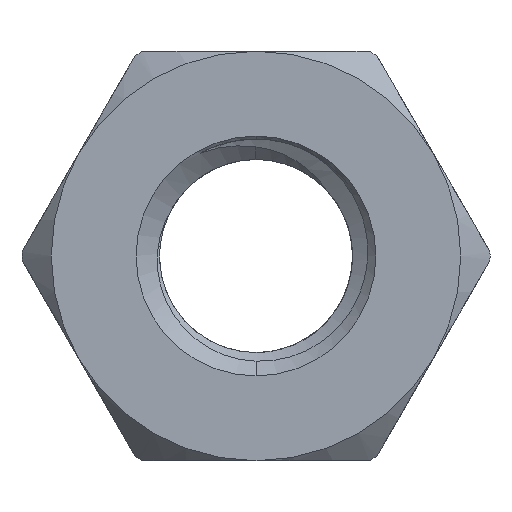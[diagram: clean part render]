
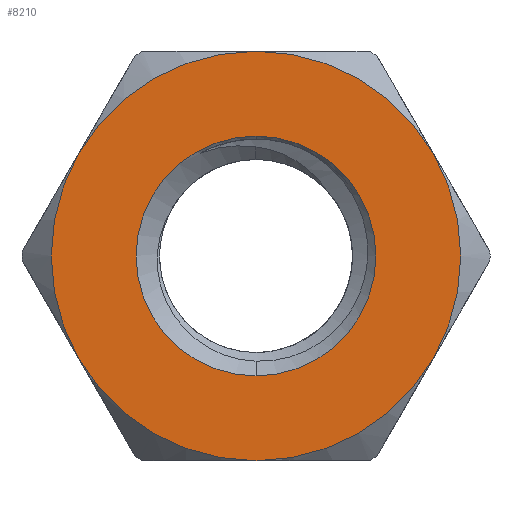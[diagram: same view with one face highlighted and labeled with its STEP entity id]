
A CAD part, front view. The second image highlights one B-rep face of the part: STEP entity #8210.
In plain terms, the highlighted planar face has unit normal (0, -1, 0).
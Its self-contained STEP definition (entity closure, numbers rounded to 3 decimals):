
#90 = CARTESIAN_POINT ( 'NONE',  ( 0., 0., 0. ) ) ;
#135 = CARTESIAN_POINT ( 'NONE',  ( 0., 0., 0. ) ) ;
#151 = DIRECTION ( 'NONE',  ( 0., 1., 0. ) ) ;
#203 = AXIS2_PLACEMENT_3D ( 'NONE', #3745, #3675, #1265 ) ;
#414 = CIRCLE ( 'NONE', #203, 2.05 ) ;
#728 = CIRCLE ( 'NONE', #5628, 3.5 ) ;
#756 = CARTESIAN_POINT ( 'NONE',  ( 0., 0., 3.5 ) ) ;
#856 = CARTESIAN_POINT ( 'NONE',  ( 0., 0., -2.05 ) ) ;
#858 = DIRECTION ( 'NONE',  ( 0., 0., 1. ) ) ;
#893 = DIRECTION ( 'NONE',  ( 0., 0., 1. ) ) ;
#1265 = DIRECTION ( 'NONE',  ( 0., 0., -1. ) ) ;
#1441 = DIRECTION ( 'NONE',  ( 0., 0., 1. ) ) ;
#1510 = CARTESIAN_POINT ( 'NONE',  ( 0., 0., 0. ) ) ;
#1599 = VERTEX_POINT ( 'NONE', #7257 ) ;
#1640 = CARTESIAN_POINT ( 'NONE',  ( 0., 0., 0. ) ) ;
#1822 = FACE_BOUND ( 'NONE', #2316, .T. ) ;
#1838 = EDGE_CURVE ( 'NONE', #9264, #6832, #414, .T. ) ;
#2303 = DIRECTION ( 'NONE',  ( 0., 0., -1. ) ) ;
#2316 = EDGE_LOOP ( 'NONE', ( #2657, #5925 ) ) ;
#2382 = DIRECTION ( 'NONE',  ( 0., -1., 0. ) ) ;
#2591 = CIRCLE ( 'NONE', #7183, 3.5 ) ;
#2657 = ORIENTED_EDGE ( 'NONE', *, *, #2745, .F. ) ;
#2738 = AXIS2_PLACEMENT_3D ( 'NONE', #1510, #6931, #1441 ) ;
#2745 = EDGE_CURVE ( 'NONE', #6832, #9264, #5400, .T. ) ;
#2837 = CARTESIAN_POINT ( 'NONE',  ( 0., 0., 0. ) ) ;
#2848 = EDGE_CURVE ( 'NONE', #8259, #5624, #9139, .T. ) ;
#3101 = EDGE_CURVE ( 'NONE', #5560, #6317, #728, .T. ) ;
#3119 = DIRECTION ( 'NONE',  ( 0., -1., 0. ) ) ;
#3189 = ORIENTED_EDGE ( 'NONE', *, *, #6010, .T. ) ;
#3442 = CARTESIAN_POINT ( 'NONE',  ( 0., 0., 0. ) ) ;
#3519 = DIRECTION ( 'NONE',  ( 0., -1., 0. ) ) ;
#3594 = DIRECTION ( 'NONE',  ( 0., 0., 1. ) ) ;
#3617 = CIRCLE ( 'NONE', #4847, 3.5 ) ;
#3623 = ORIENTED_EDGE ( 'NONE', *, *, #3101, .T. ) ;
#3675 = DIRECTION ( 'NONE',  ( 0., -1., 0. ) ) ;
#3745 = CARTESIAN_POINT ( 'NONE',  ( 0., 0., 0. ) ) ;
#3808 = AXIS2_PLACEMENT_3D ( 'NONE', #1640, #3119, #9471 ) ;
#4045 = CARTESIAN_POINT ( 'NONE',  ( 0., 0., 0. ) ) ;
#4357 = ORIENTED_EDGE ( 'NONE', *, *, #2848, .T. ) ;
#4432 = ORIENTED_EDGE ( 'NONE', *, *, #9297, .T. ) ;
#4568 = CIRCLE ( 'NONE', #3808, 3.5 ) ;
#4584 = CARTESIAN_POINT ( 'NONE',  ( 0., 0., 2.05 ) ) ;
#4689 = AXIS2_PLACEMENT_3D ( 'NONE', #7068, #2382, #2303 ) ;
#4847 = AXIS2_PLACEMENT_3D ( 'NONE', #135, #7239, #7334 ) ;
#4940 = EDGE_LOOP ( 'NONE', ( #5676, #3623, #4432, #3189, #4357, #5849 ) ) ;
#4992 = DIRECTION ( 'NONE',  ( 0., -1., 0. ) ) ;
#5400 = CIRCLE ( 'NONE', #4689, 2.05 ) ;
#5560 = VERTEX_POINT ( 'NONE', #756 ) ;
#5624 = VERTEX_POINT ( 'NONE', #5932 ) ;
#5628 = AXIS2_PLACEMENT_3D ( 'NONE', #4045, #5637, #893 ) ;
#5637 = DIRECTION ( 'NONE',  ( 0., -1., 0. ) ) ;
#5659 = AXIS2_PLACEMENT_3D ( 'NONE', #90, #151, #858 ) ;
#5676 = ORIENTED_EDGE ( 'NONE', *, *, #6592, .T. ) ;
#5800 = DIRECTION ( 'NONE',  ( 0., 0., -1. ) ) ;
#5849 = ORIENTED_EDGE ( 'NONE', *, *, #6699, .T. ) ;
#5925 = ORIENTED_EDGE ( 'NONE', *, *, #1838, .F. ) ;
#5932 = CARTESIAN_POINT ( 'NONE',  ( 3.031, 0., -1.75 ) ) ;
#6010 = EDGE_CURVE ( 'NONE', #7777, #8259, #3617, .T. ) ;
#6317 = VERTEX_POINT ( 'NONE', #8708 ) ;
#6338 = PLANE ( 'NONE',  #5659 ) ;
#6592 = EDGE_CURVE ( 'NONE', #1599, #5560, #2591, .T. ) ;
#6699 = EDGE_CURVE ( 'NONE', #5624, #1599, #4568, .T. ) ;
#6832 = VERTEX_POINT ( 'NONE', #856 ) ;
#6931 = DIRECTION ( 'NONE',  ( 0., -1., 0. ) ) ;
#7068 = CARTESIAN_POINT ( 'NONE',  ( 0., 0., 0. ) ) ;
#7183 = AXIS2_PLACEMENT_3D ( 'NONE', #2837, #3519, #3594 ) ;
#7239 = DIRECTION ( 'NONE',  ( 0., -1., 0. ) ) ;
#7257 = CARTESIAN_POINT ( 'NONE',  ( 3.031, 0., 1.75 ) ) ;
#7334 = DIRECTION ( 'NONE',  ( 0., 0., 1. ) ) ;
#7378 = CARTESIAN_POINT ( 'NONE',  ( 0., 0., -3.5 ) ) ;
#7710 = CARTESIAN_POINT ( 'NONE',  ( -3.031, 0., -1.75 ) ) ;
#7777 = VERTEX_POINT ( 'NONE', #7710 ) ;
#8210 = ADVANCED_FACE ( 'NONE', ( #1822, #8884 ), #6338, .F. ) ;
#8259 = VERTEX_POINT ( 'NONE', #7378 ) ;
#8708 = CARTESIAN_POINT ( 'NONE',  ( -3.031, 0., 1.75 ) ) ;
#8884 = FACE_OUTER_BOUND ( 'NONE', #4940, .T. ) ;
#9139 = CIRCLE ( 'NONE', #9661, 3.5 ) ;
#9264 = VERTEX_POINT ( 'NONE', #4584 ) ;
#9297 = EDGE_CURVE ( 'NONE', #6317, #7777, #9500, .T. ) ;
#9471 = DIRECTION ( 'NONE',  ( 0., 0., 1. ) ) ;
#9500 = CIRCLE ( 'NONE', #2738, 3.5 ) ;
#9661 = AXIS2_PLACEMENT_3D ( 'NONE', #3442, #4992, #5800 ) ;
